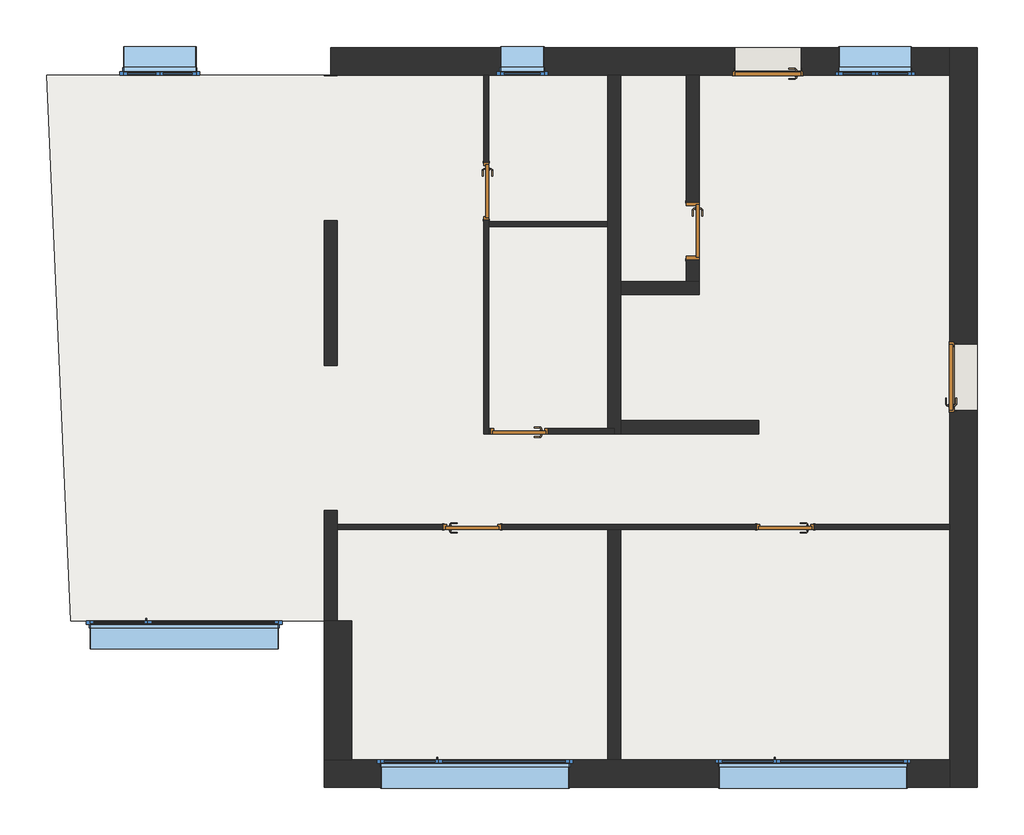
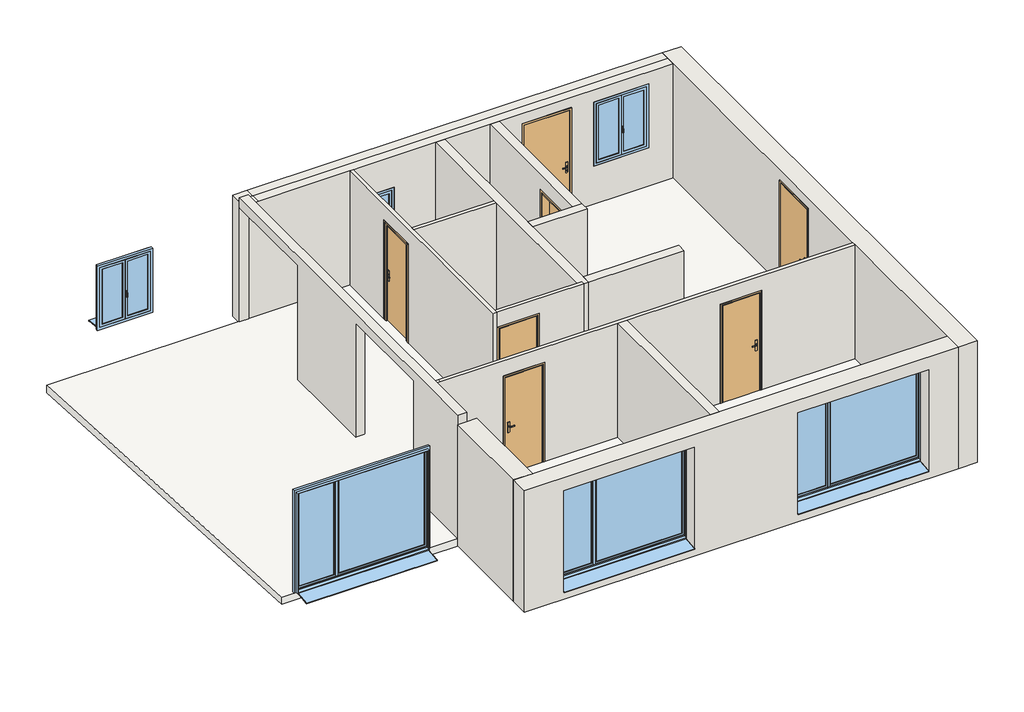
# One storey, incomplete: 13 walls, 7 doors, 6 windows, 1 slab.
"""IFC4 building model written with IfcOpenShell, lengths in millimetres."""

from ifc_helpers import new_model, si_unit, frame, origin, origin_with_axes, place, context, project, spatial, polyline, outline, extrude, faceted_brep, transform, mapped, element, save
from components import door_064d3271, int_simple_pp_0_73m_x_2_04m_0234ae46, int_simple_pp_0_73m_x_2_04m_d65dadfb, int_simple_pp_0_73m_x_2_04m_646e19c0, window_1_vantail_droit_0_60m_x_0_90m_8d029caf, window_1_30m_x_1_00m_6cb13c39, window_2_60m_x_2_10m_1177ca68

model = new_model("IFC4")

# Units and contexts
model_context = context("Model", 3, world=origin())
ifc_project = project(units=[si_unit("LENGTHUNIT", "METRE", prefix="MILLI")], contexts=[model_context])

# Site, building, storey
site = spatial("IfcSite", under=ifc_project)
building = spatial("IfcBuilding", under=site)
storey = spatial("IfcBuildingStorey", under=building, Name="RdC", Elevation=0.0)

# Doors
placement = place(None, origin())
door_shape = door_064d3271(model_context)
element("IfcDoor", 1, ObjectType="Porte d'entrée : PP Lisse (0.90 m x 2.15 m)", at=placement, inside=storey, context=model_context, shape_type="MappedRepresentation", body=[
    mapped(door_shape, transform((3814.2517592, 7464.1422201, 0.0), x_axis=(-1.0, 0.0, 0.0), y_axis=(0.0, -1.0, 0.0), z_axis=(0.0, 0.0, 1.0))),
])
element("IfcDoor", 2, ObjectType="Porte d'entrée : PP Lisse (0.90 m x 2.15 m)", at=placement, inside=storey, context=model_context, shape_type="MappedRepresentation", body=[
    mapped(door_shape, transform((6524.2517592, 3114.1422201, 0.0), x_axis=(0.0, 1.0, 0.0), y_axis=(-1.0, 0.0, 0.0), z_axis=(0.0, 0.0, 1.0))),
])
int_simple_pp_0_73m_x_2_04m_shape = int_simple_pp_0_73m_x_2_04m_0234ae46(model_context)
element("IfcDoor", 3, ObjectType="Int. Simple : PP (0.73m x 2.04m)", at=placement, inside=storey, context=model_context, shape_type="MappedRepresentation", body=[
    mapped(int_simple_pp_0_73m_x_2_04m_shape, transform((-220.7482408, 1039.1422201, 0.0), x_axis=(1.0, 0.0, 0.0), y_axis=(0.0, 1.0, 0.0), z_axis=(0.0, 0.0, 1.0))),
])
int_simple_pp_0_73m_x_2_04m_2_shape = int_simple_pp_0_73m_x_2_04m_d65dadfb(model_context)
element("IfcDoor", 4, ObjectType="Int. Simple : PP (0.73m x 2.04m)", at=placement, inside=storey, context=model_context, shape_type="MappedRepresentation", body=[
    mapped(int_simple_pp_0_73m_x_2_04m_2_shape, transform((-60.7482408, 5639.1422201, 0.0), x_axis=(0.0, -1.0, 0.0), y_axis=(1.0, 0.0, 0.0), z_axis=(0.0, 0.0, 1.0))),
])
element("IfcDoor", 5, ObjectType="Int. Simple : PP (0.73m x 2.04m)", at=placement, inside=storey, context=model_context, shape_type="MappedRepresentation", body=[
    mapped(int_simple_pp_0_73m_x_2_04m_2_shape, transform((359.2517592, 2359.1422201, 0.0), x_axis=(-1.0, 0.0, 0.0), y_axis=(0.0, -1.0, 0.0), z_axis=(0.0, 0.0, 1.0))),
])
element("IfcDoor", 6, ObjectType="Int. Simple : PP (0.73m x 2.04m)", at=placement, inside=storey, context=model_context, shape_type="MappedRepresentation", body=[
    mapped(int_simple_pp_0_73m_x_2_04m_2_shape, transform((4029.2517592, 1039.1422201, 0.0), x_axis=(-1.0, 0.0, 0.0), y_axis=(0.0, -1.0, 0.0), z_axis=(0.0, 0.0, 1.0))),
])
int_simple_pp_0_73m_x_2_04m_3_shape = int_simple_pp_0_73m_x_2_04m_646e19c0(model_context)
element("IfcDoor", 7, ObjectType="Int. Simple : PP (0.73m x 2.04m)", at=placement, inside=storey, context=model_context, shape_type="MappedRepresentation", body=[
    mapped(int_simple_pp_0_73m_x_2_04m_3_shape, transform((2784.2517592, 5089.1422201, 0.0), x_axis=(0.0, -1.0, 0.0), y_axis=(1.0, 0.0, 0.0), z_axis=(0.0, 0.0, 1.0))),
])

# Slab
element("IfcSlab", 8, ObjectType="Générique 150 mm - Plein", at=placement, inside=storey, context=model_context, shape_type="SweptSolid", body=[
    extrude(outline(polyline([(-6127.5668152, 7274.1422201), (6334.2517592, 7274.1422201), (6334.2517592, -2175.8577799), (-1915.7482408, -2175.8577799), (-1915.7482408, -255.8577799), (-5794.4672534, -255.8577799), (-6127.5668152, 7274.1422201)])), frame((0.0, 0.0, -150.0), z_axis=(0.0, 0.0, 1.0), x_axis=(1.0, 0.0, 0.0)), (0.0, 0.0, 1.0), 150.0),
])

# Walls
element("IfcWall", 9, ObjectType="Alliance soleil Mur extérieur", at=placement, inside=storey, context=model_context, shape_type="Brep", body=[
    faceted_brep([(6334.2517592, 7654.1422201, -150.0), (6334.2517592, 7274.1422201, -150.0), (6334.2517592, -2175.8577799, -150.0), (6334.2517592, -2555.8577799, -150.0), (6334.2517592, -2555.8577799, 2400.0), (6334.2517592, -2175.8577799, 2400.0), (6334.2517592, 1004.1422201, 2400.0), (6334.2517592, 1074.1422201, 2400.0), (6334.2517592, 7274.1422201, 2400.0), (6334.2517592, 7654.1422201, 2400.0), (6334.2517592, 3564.1422201, 0.0), (6334.2517592, 3594.1422201, 0.0), (6334.2517592, 3594.1422201, 2190.0), (6334.2517592, 2614.1422201, 2190.0), (6334.2517592, 2614.1422201, 0.0), (6334.2517592, 2644.1422201, 0.0), (6714.2517592, -2555.8577799, -150.0), (6714.2517592, 7654.1422201, -150.0), (6714.2517592, 7654.1422201, 2400.0), (6714.2517592, -2555.8577799, 2400.0), (6714.2517592, 2644.1422201, 2160.0), (6714.2517592, 3564.1422201, 2160.0), (6714.2517592, 3564.1422201, 0.0), (6714.2517592, 2644.1422201, 0.0), (6434.2517592, 2644.1422201, 2160.0), (6434.2517592, 3564.1422201, 2160.0), (6434.2517592, 3564.1422201, 0.0), (6434.2517592, 3579.1422201, 0.0), (6391.2517592, 3579.1422201, 0.0), (6391.2517592, 3594.1422201, 0.0), (6391.2517592, 2614.1422201, 0.0), (6391.2517592, 2629.1422201, 0.0), (6434.2517592, 2629.1422201, 0.0), (6434.2517592, 2644.1422201, 0.0), (6391.2517592, 3579.1422201, 2175.0), (6391.2517592, 2629.1422201, 2175.0), (6391.2517592, 2614.1422201, 2190.0), (6391.2517592, 3594.1422201, 2190.0), (6434.2517592, 2629.1422201, 2175.0), (6434.2517592, 3579.1422201, 2175.0)], [[[0, 1, 2, 3, 4, 5, 6, 7, 8, 9], [10, 11, 12, 13, 14, 15]], [[16, 17, 18, 19], [20, 21, 22, 23]], [[3, 2, 1, 0, 17, 16]], [[9, 8, 7, 6, 5, 4, 19, 18]], [[4, 3, 16, 19]], [[0, 9, 18, 17]], [[24, 25, 21, 20]], [[26, 27, 28, 29, 11, 10, 15, 14, 30, 31, 32, 33, 23, 22]], [[25, 26, 22, 21]], [[33, 24, 20, 23]], [[29, 28, 34, 35, 31, 30, 36, 37]], [[30, 14, 13, 36]], [[37, 36, 13, 12]], [[11, 29, 37, 12]], [[32, 31, 35, 38]], [[25, 24, 33, 32, 38, 39, 27, 26]], [[35, 34, 39, 38]], [[28, 27, 39, 34]]]),
])
element("IfcWall", 10, ObjectType="Alliance soleil Mur extérieur", at=placement, inside=storey, context=model_context, shape_type="Brep", body=[
    faceted_brep([(6334.2517592, -2175.8577799, -150.0), (-1915.7482408, -2175.8577799, -150.0), (-2295.7482408, -2175.8577799, -150.0), (-2295.7482408, -2175.8577799, 2400.0), (-1915.7482408, -2175.8577799, 2400.0), (1614.2517592, -2175.8577799, 2400.0), (1794.2517592, -2175.8577799, 2400.0), (6334.2517592, -2175.8577799, 2400.0), (3144.2517592, -2175.8577799, 35.0), (5744.2517592, -2175.8577799, 35.0), (5794.2517592, -2175.8577799, 35.0), (5794.2517592, -2175.8577799, 2185.0), (3094.2517592, -2175.8577799, 2185.0), (3094.2517592, -2175.8577799, 35.0), (-1565.7482408, -2175.8577799, 35.0), (1134.2517592, -2175.8577799, 35.0), (1134.2517592, -2175.8577799, 2185.0), (-1565.7482408, -2175.8577799, 2185.0), (-2295.7482408, -2555.8577799, -150.0), (6334.2517592, -2555.8577799, -150.0), (6334.2517592, -2555.8577799, 2400.0), (-2295.7482408, -2555.8577799, 2400.0), (5744.2517592, -2555.8577799, 2135.0), (5744.2517592, -2555.8577799, 3.4687294), (3144.2517592, -2555.8577799, 3.4687294), (3144.2517592, -2555.8577799, 2135.0), (1084.2517592, -2555.8577799, 2135.0), (1084.2517592, -2555.8577799, 3.4687294), (-1515.7482408, -2555.8577799, 3.4687294), (-1515.7482408, -2555.8577799, 2135.0), (5744.2517592, -2275.8577799, 2135.0), (5744.2517592, -2275.8577799, 35.0), (5744.2517592, -2255.8577799, 35.0), (3144.2517592, -2255.8577799, 35.0), (3144.2517592, -2275.8577799, 35.0), (3144.2517592, -2275.8577799, 2135.0), (5754.2517592, -2275.8577799, 35.0), (5754.2517592, -2225.8577799, 35.0), (5794.2517592, -2225.8577799, 35.0), (3094.2517592, -2225.8577799, 35.0), (3134.2517592, -2225.8577799, 35.0), (3134.2517592, -2275.8577799, 35.0), (5794.2517592, -2225.8577799, 2185.0), (3094.2517592, -2225.8577799, 2185.0), (5754.2517592, -2225.8577799, 2145.0), (3134.2517592, -2225.8577799, 2145.0), (5754.2517592, -2275.8577799, 2145.0), (3134.2517592, -2275.8577799, 2145.0), (1084.2517592, -2255.8577799, 35.0), (1084.2517592, -2275.8577799, 2135.0), (1084.2517592, -2275.8577799, 35.0), (-1515.7482408, -2255.8577799, 35.0), (-1515.7482408, -2275.8577799, 35.0), (-1515.7482408, -2275.8577799, 2135.0), (1094.2517592, -2275.8577799, 35.0), (1094.2517592, -2225.8577799, 35.0), (1134.2517592, -2225.8577799, 35.0), (-1565.7482408, -2225.8577799, 35.0), (-1525.7482408, -2225.8577799, 35.0), (-1525.7482408, -2275.8577799, 35.0), (1134.2517592, -2225.8577799, 2185.0), (1094.2517592, -2225.8577799, 2145.0), (-1525.7482408, -2225.8577799, 2145.0), (-1565.7482408, -2225.8577799, 2185.0), (1094.2517592, -2275.8577799, 2145.0), (-1525.7482408, -2275.8577799, 2145.0)], [[[0, 1, 2, 3, 4, 5, 6, 7], [8, 9, 10, 11, 12, 13], [14, 15, 16, 17]], [[18, 19, 20, 21], [22, 23, 24, 25], [26, 27, 28, 29]], [[2, 1, 0, 19, 18]], [[7, 6, 5, 4, 3, 21, 20]], [[0, 7, 20, 19]], [[3, 2, 18, 21]], [[30, 31, 32, 23, 22]], [[33, 34, 35, 25, 24]], [[32, 31, 36, 37, 38, 10, 9, 8, 13, 39, 40, 41, 34, 33]], [[35, 30, 22, 25]], [[32, 33, 24, 23]], [[10, 38, 42, 11]], [[40, 39, 43, 42, 38, 37, 44, 45]], [[37, 36, 46, 44]], [[31, 30, 35, 34, 41, 47, 46, 36]], [[11, 42, 43, 12]], [[45, 44, 46, 47]], [[39, 13, 12, 43]], [[41, 40, 45, 47]], [[48, 27, 26, 49, 50]], [[28, 51, 52, 53, 29]], [[27, 48, 51, 28]], [[49, 26, 29, 53]], [[48, 50, 54, 55, 56, 15, 14, 57, 58, 59, 52, 51]], [[15, 56, 60, 16]], [[56, 55, 61, 62, 58, 57, 63, 60]], [[55, 54, 64, 61]], [[50, 49, 53, 52, 59, 65, 64, 54]], [[16, 60, 63, 17]], [[62, 61, 64, 65]], [[57, 14, 17, 63]], [[59, 58, 62, 65]]]),
])
element("IfcWall", 11, ObjectType="Alliance soleil Mur extérieur", at=placement, inside=storey, context=model_context, shape_type="Brep", body=[
    faceted_brep([(-1915.7482408, -2175.8577799, -150.0), (-1915.7482408, -255.8577799, -150.0), (-1915.7482408, -255.8577799, 2400.0), (-1915.7482408, -2175.8577799, 2400.0), (-2295.7482408, -2175.8577799, -150.0), (-2295.7482408, -2175.8577799, 2400.0), (-2295.7482408, -635.8577799, 2400.0), (-2295.7482408, -255.8577799, 2400.0), (-2295.7482408, -255.8577799, 0.0), (-2295.7482408, -255.8577799, -150.0), (-2295.7482408, -635.8577799, -150.0), (-2115.7482408, -255.8577799, 2400.0)], [[[0, 1, 2, 3]], [[4, 5, 6, 7, 8, 9, 10]], [[1, 0, 4, 10, 9]], [[3, 2, 11, 7, 6, 5]], [[0, 3, 5, 4]], [[1, 9, 8, 7, 11, 2]]]),
])
element("IfcWall", 12, ObjectType="Alliance soleil Mur extérieur", at=placement, inside=storey, context=model_context, shape_type="Brep", body=[
    faceted_brep([(6334.2517592, 7654.1422201, -150.0), (-2205.7482408, 7654.1422201, -150.0), (-2205.7482408, 7654.1422201, 2400.0), (-1915.7482408, 7654.1422201, 2400.0), (6334.2517592, 7654.1422201, 2400.0), (4804.2517592, 7654.1422201, 2100.0), (4804.2517592, 7654.1422201, 753.4687294), (5804.2517592, 7654.1422201, 753.4687294), (5804.2517592, 7654.1422201, 2100.0), (135.2517592, 7654.1422201, 1700.0), (135.2517592, 7654.1422201, 753.4687294), (735.2517592, 7654.1422201, 753.4687294), (735.2517592, 7654.1422201, 1700.0), (4284.2517592, 7654.1422201, 2160.0), (3364.2517592, 7654.1422201, 2160.0), (3364.2517592, 7654.1422201, 0.0), (4284.2517592, 7654.1422201, 0.0), (-2205.7482408, 7274.1422201, -150.0), (6334.2517592, 7274.1422201, -150.0), (6334.2517592, 7274.1422201, 2400.0), (2874.2517592, 7274.1422201, 2400.0), (2694.2517592, 7274.1422201, 2400.0), (1794.2517592, 7274.1422201, 2400.0), (1614.2517592, 7274.1422201, 2400.0), (-25.7482408, 7274.1422201, 2400.0), (-95.7482408, 7274.1422201, 2400.0), (-1915.7482408, 7274.1422201, 2400.0), (-2205.7482408, 7274.1422201, 2400.0), (5854.2517592, 7274.1422201, 800.0), (4754.2517592, 7274.1422201, 800.0), (4754.2517592, 7274.1422201, 2150.0), (5854.2517592, 7274.1422201, 2150.0), (785.2517592, 7274.1422201, 800.0), (85.2517592, 7274.1422201, 800.0), (85.2517592, 7274.1422201, 1750.0), (785.2517592, 7274.1422201, 1750.0), (3364.2517592, 7274.1422201, 0.0), (3334.2517592, 7274.1422201, 0.0), (3334.2517592, 7274.1422201, 2190.0), (4314.2517592, 7274.1422201, 2190.0), (4314.2517592, 7274.1422201, 0.0), (4284.2517592, 7274.1422201, 0.0), (6334.2517592, 7464.1422201, 2400.0), (-1915.7482408, 7464.1422201, 2400.0), (-2205.7482408, 7464.1422201, 2400.0), (4804.2517592, 7354.1422201, 800.0), (4804.2517592, 7354.1422201, 785.0), (4804.2517592, 7374.1422201, 2100.0), (4804.2517592, 7374.1422201, 800.0), (5804.2517592, 7354.1422201, 785.0), (5804.2517592, 7354.1422201, 800.0), (5804.2517592, 7374.1422201, 800.0), (5804.2517592, 7374.1422201, 2100.0), (4794.2517592, 7374.1422201, 800.0), (4794.2517592, 7324.1422201, 800.0), (4754.2517592, 7324.1422201, 800.0), (5854.2517592, 7324.1422201, 800.0), (5814.2517592, 7324.1422201, 800.0), (5814.2517592, 7374.1422201, 800.0), (4754.2517592, 7324.1422201, 2150.0), (4794.2517592, 7324.1422201, 2110.0), (5814.2517592, 7324.1422201, 2110.0), (5854.2517592, 7324.1422201, 2150.0), (4794.2517592, 7374.1422201, 2110.0), (5814.2517592, 7374.1422201, 2110.0), (135.2517592, 7354.1422201, 800.0), (135.2517592, 7354.1422201, 785.0), (135.2517592, 7374.1422201, 1700.0), (135.2517592, 7374.1422201, 800.0), (735.2517592, 7354.1422201, 785.0), (735.2517592, 7354.1422201, 800.0), (735.2517592, 7374.1422201, 800.0), (735.2517592, 7374.1422201, 1700.0), (125.2517592, 7374.1422201, 800.0), (125.2517592, 7324.1422201, 800.0), (85.2517592, 7324.1422201, 800.0), (785.2517592, 7324.1422201, 800.0), (745.2517592, 7324.1422201, 800.0), (745.2517592, 7374.1422201, 800.0), (85.2517592, 7324.1422201, 1750.0), (125.2517592, 7324.1422201, 1710.0), (745.2517592, 7324.1422201, 1710.0), (785.2517592, 7324.1422201, 1750.0), (125.2517592, 7374.1422201, 1710.0), (745.2517592, 7374.1422201, 1710.0), (4284.2517592, 7374.1422201, 2160.0), (3364.2517592, 7374.1422201, 2160.0), (3364.2517592, 7374.1422201, 0.0), (3349.2517592, 7374.1422201, 0.0), (3349.2517592, 7331.1422201, 0.0), (3334.2517592, 7331.1422201, 0.0), (4314.2517592, 7331.1422201, 0.0), (4299.2517592, 7331.1422201, 0.0), (4299.2517592, 7374.1422201, 0.0), (4284.2517592, 7374.1422201, 0.0), (3349.2517592, 7331.1422201, 2175.0), (4299.2517592, 7331.1422201, 2175.0), (4314.2517592, 7331.1422201, 2190.0), (3334.2517592, 7331.1422201, 2190.0), (4299.2517592, 7374.1422201, 2175.0), (3349.2517592, 7374.1422201, 2175.0)], [[[0, 1, 2, 3, 4], [5, 6, 7, 8], [9, 10, 11, 12], [13, 14, 15, 16]], [[17, 18, 19, 20, 21, 22, 23, 24, 25, 26, 27], [28, 29, 30, 31], [32, 33, 34, 35], [36, 37, 38, 39, 40, 41]], [[1, 0, 18, 17]], [[0, 4, 42, 19, 18]], [[4, 3, 43, 42]], [[27, 26, 43, 44]], [[3, 2, 44, 43]], [[26, 25, 24, 23, 22, 21, 20, 19, 42, 43]], [[1, 17, 27, 44, 2]], [[45, 46, 6, 5, 47, 48]], [[49, 50, 51, 52, 8, 7]], [[46, 49, 7, 6]], [[46, 45, 50, 49]], [[5, 8, 52, 47]], [[50, 45, 48, 53, 54, 55, 29, 28, 56, 57, 58, 51]], [[29, 55, 59, 30]], [[55, 54, 60, 61, 57, 56, 62, 59]], [[54, 53, 63, 60]], [[53, 48, 47, 52, 51, 58, 64, 63]], [[30, 59, 62, 31]], [[61, 60, 63, 64]], [[62, 56, 28, 31]], [[57, 61, 64, 58]], [[65, 66, 10, 9, 67, 68]], [[69, 70, 71, 72, 12, 11]], [[66, 69, 11, 10]], [[66, 65, 70, 69]], [[9, 12, 72, 67]], [[70, 65, 68, 73, 74, 75, 33, 32, 76, 77, 78, 71]], [[33, 75, 79, 34]], [[75, 74, 80, 81, 77, 76, 82, 79]], [[74, 73, 83, 80]], [[73, 68, 67, 72, 71, 78, 84, 83]], [[34, 79, 82, 35]], [[81, 80, 83, 84]], [[82, 76, 32, 35]], [[77, 81, 84, 78]], [[85, 86, 14, 13]], [[87, 88, 89, 90, 37, 36, 41, 40, 91, 92, 93, 94, 16, 15]], [[86, 87, 15, 14]], [[94, 85, 13, 16]], [[90, 89, 95, 96, 92, 91, 97, 98]], [[91, 40, 39, 97]], [[98, 97, 39, 38]], [[37, 90, 98, 38]], [[93, 92, 96, 99]], [[86, 85, 94, 93, 99, 100, 88, 87]], [[96, 95, 100, 99]], [[89, 88, 100, 95]]]),
])
element("IfcWall", 13, ObjectType="Alliance soleil Mur refend", at=placement, inside=storey, context=model_context, shape_type="Brep", body=[
    faceted_brep([(1794.2517592, -2175.8577799, 2400.0), (1794.2517592, -2175.8577799, 0.0), (1794.2517592, 1004.1422201, 0.0), (1794.2517592, 1004.1422201, 2400.0), (1614.2517592, -2175.8577799, 0.0), (1614.2517592, -2175.8577799, 2400.0), (1614.2517592, 1004.1422201, 2400.0), (1614.2517592, 1004.1422201, 0.0)], [[[0, 1, 2, 3]], [[4, 5, 6, 7]], [[1, 4, 7, 2]], [[1, 0, 5, 4]], [[5, 0, 3, 6]], [[3, 2, 7, 6]]]),
    faceted_brep([(1794.2517592, 7274.1422201, 0.0), (1794.2517592, 7274.1422201, 2400.0), (1794.2517592, 4424.1422201, 2400.0), (1794.2517592, 4244.1422201, 2400.0), (1794.2517592, 2504.1422201, 2400.0), (1794.2517592, 2324.1422201, 2400.0), (1794.2517592, 2324.1422201, 0.0), (1794.2517592, 2504.1422201, 0.0), (1794.2517592, 4244.1422201, 0.0), (1794.2517592, 4424.1422201, 0.0), (1614.2517592, 7274.1422201, 2400.0), (1614.2517592, 7274.1422201, 0.0), (1614.2517592, 5254.1422201, 0.0), (1614.2517592, 5184.1422201, 0.0), (1614.2517592, 2324.1422201, 0.0), (1614.2517592, 2324.1422201, 2400.0), (1614.2517592, 5184.1422201, 2400.0), (1614.2517592, 5254.1422201, 2400.0)], [[[0, 1, 2, 3, 4, 5, 6, 7, 8, 9]], [[10, 11, 12, 13, 14, 15, 16, 17]], [[11, 0, 9, 8, 7, 6, 14, 13, 12]], [[1, 0, 11, 10]], [[1, 10, 17, 16, 15, 5, 4, 3, 2]], [[6, 5, 15, 14]]]),
])
element("IfcWall", 14, ObjectType="Alliance soleil Mur refend", at=placement, inside=storey, context=model_context, shape_type="Brep", body=[
    faceted_brep([(-2115.7482408, 7274.1422201, 0.0), (-2115.7482408, 7274.1422201, 2600.0), (-2115.7482408, -255.8577799, 2600.0), (-2115.7482408, -255.8577799, 2400.0), (-2115.7482408, -255.8577799, 0.0), (-2115.7482408, 1004.1422201, 0.0), (-2115.7482408, 1074.1422201, 0.0), (-2115.7482408, 1264.1422201, 0.0), (-2115.7482408, 1264.1422201, 2400.0), (-2115.7482408, 3264.1422201, 2400.0), (-2115.7482408, 3264.1422201, 0.0), (-2115.7482408, 5264.1422201, 0.0), (-2115.7482408, 5264.1422201, 2400.0), (-2115.7482408, 7264.1422201, 2400.0), (-2115.7482408, 7264.1422201, 0.0), (-2295.7482408, 7274.1422201, 2600.0), (-2295.7482408, 7274.1422201, 0.0), (-2295.7482408, 7264.1422201, 0.0), (-2295.7482408, 7264.1422201, 2400.0), (-2295.7482408, 5264.1422201, 2400.0), (-2295.7482408, 5264.1422201, 0.0), (-2295.7482408, 3264.1422201, 0.0), (-2295.7482408, 3264.1422201, 2400.0), (-2295.7482408, 1264.1422201, 2400.0), (-2295.7482408, 1264.1422201, 0.0), (-2295.7482408, -255.8577799, 0.0), (-2295.7482408, -255.8577799, 2400.0), (-2295.7482408, -255.8577799, 2600.0)], [[[0, 1, 2, 3, 4, 5, 6, 7, 8, 9, 10, 11, 12, 13, 14]], [[15, 16, 17, 18, 19, 20, 21, 22, 23, 24, 25, 26, 27]], [[4, 25, 24, 7, 6, 5]], [[16, 0, 14, 17]], [[20, 11, 10, 21]], [[2, 1, 15, 27]], [[4, 3, 2, 27, 26, 25]], [[12, 19, 18, 13]], [[19, 12, 11, 20]], [[13, 18, 17, 14]], [[8, 23, 22, 9]], [[23, 8, 7, 24]], [[9, 22, 21, 10]], [[0, 16, 15, 1]]]),
])
element("IfcWall", 15, ObjectType="Alliance soleil Cloison intérieure", at=placement, inside=storey, context=model_context, shape_type="Brep", body=[
    faceted_brep([(6334.2517592, 1074.1422201, 2400.0), (6334.2517592, 1074.1422201, 0.0), (4464.2517592, 1074.1422201, 0.0), (4464.2517592, 1074.1422201, 2075.0), (3664.2517592, 1074.1422201, 2075.0), (3664.2517592, 1074.1422201, 0.0), (144.2517592, 1074.1422201, 0.0), (144.2517592, 1074.1422201, 2075.0), (-655.7482408, 1074.1422201, 2075.0), (-655.7482408, 1074.1422201, 0.0), (-2115.7482408, 1074.1422201, 0.0), (-2115.7482408, 1074.1422201, 2400.0), (-1915.7482408, 1074.1422201, 2400.0), (6334.2517592, 1004.1422201, 0.0), (6334.2517592, 1004.1422201, 2400.0), (1794.2517592, 1004.1422201, 2400.0), (1614.2517592, 1004.1422201, 2400.0), (-1915.7482408, 1004.1422201, 2400.0), (-2115.7482408, 1004.1422201, 2400.0), (-2115.7482408, 1004.1422201, 0.0), (-655.7482408, 1004.1422201, 0.0), (-655.7482408, 1004.1422201, 2075.0), (144.2517592, 1004.1422201, 2075.0), (144.2517592, 1004.1422201, 0.0), (1614.2517592, 1004.1422201, 0.0), (1794.2517592, 1004.1422201, 0.0), (3664.2517592, 1004.1422201, 0.0), (3664.2517592, 1004.1422201, 2075.0), (4464.2517592, 1004.1422201, 2075.0), (4464.2517592, 1004.1422201, 0.0)], [[[0, 1, 2, 3, 4, 5, 6, 7, 8, 9, 10, 11, 12]], [[13, 14, 15, 16, 17, 18, 19, 20, 21, 22, 23, 24, 25, 26, 27, 28, 29]], [[1, 13, 29, 2]], [[19, 10, 9, 20]], [[23, 6, 5, 26, 25, 24]], [[1, 0, 14, 13]], [[11, 10, 19, 18]], [[11, 18, 17, 12]], [[0, 12, 17, 16, 15, 14]], [[22, 7, 6, 23]], [[7, 22, 21, 8]], [[8, 21, 20, 9]], [[4, 27, 26, 5]], [[27, 4, 3, 28]], [[28, 3, 2, 29]]]),
])
element("IfcWall", 16, ObjectType="Alliance soleil Cloison intérieure", at=placement, inside=storey, context=model_context, shape_type="Brep", body=[
    faceted_brep([(-95.7482408, 7274.1422201, 2400.0), (-95.7482408, 7274.1422201, 0.0), (-95.7482408, 6074.1422201, 0.0), (-95.7482408, 6074.1422201, 2075.0), (-95.7482408, 5274.1422201, 2075.0), (-95.7482408, 5274.1422201, 0.0), (-95.7482408, 2324.1422201, 0.0), (-95.7482408, 2324.1422201, 2400.0), (-25.7482408, 7274.1422201, 0.0), (-25.7482408, 7274.1422201, 2400.0), (-25.7482408, 5254.1422201, 2400.0), (-25.7482408, 5184.1422201, 2400.0), (-25.7482408, 4824.1422201, 2400.0), (-25.7482408, 2394.1422201, 2400.0), (-25.7482408, 2324.1422201, 2400.0), (-25.7482408, 2324.1422201, 0.0), (-25.7482408, 2394.1422201, 0.0), (-25.7482408, 5184.1422201, 0.0), (-25.7482408, 5254.1422201, 0.0), (-25.7482408, 5274.1422201, 0.0), (-25.7482408, 5274.1422201, 2075.0), (-25.7482408, 6074.1422201, 2075.0), (-25.7482408, 6074.1422201, 0.0)], [[[0, 1, 2, 3, 4, 5, 6, 7]], [[8, 9, 10, 11, 12, 13, 14, 15, 16, 17, 18, 19, 20, 21, 22]], [[1, 8, 22, 2]], [[15, 6, 5, 19, 18, 17, 16]], [[1, 0, 9, 8]], [[7, 6, 15, 14]], [[9, 0, 7, 14, 13, 12, 11, 10]], [[4, 20, 19, 5]], [[20, 4, 3, 21]], [[21, 3, 2, 22]]]),
])
element("IfcWall", 17, ObjectType="Alliance soleil Cloison intérieure", at=placement, inside=storey, context=model_context, shape_type="SweptSolid", body=[
    extrude(outline(polyline([(0.0, 1704.2517592), (2400.0, 1704.2517592), (2400.0, -25.7482408), (0.0, -25.7482408), (0.0, -5.7482408), (2075.0, -5.7482408), (2075.0, 794.2517592), (0.0, 794.2517592), (0.0, 1704.2517592)])), frame((0.0, 2324.1422201, 0.0), z_axis=(0.0, 1.0, 0.0), x_axis=(0.0, 0.0, 1.0)), (0.0, 0.0, 1.0), 70.0),
])
element("IfcWall", 18, ObjectType="Alliance soleil Cloison intérieure", at=placement, inside=storey, context=model_context, shape_type="Brep", body=[
    faceted_brep([(-25.7482408, 5184.1422201, 0.0), (1614.2517592, 5184.1422201, 0.0), (1614.2517592, 5184.1422201, 2400.0), (674.2517592, 5184.1422201, 2400.0), (-25.7482408, 5184.1422201, 2400.0), (-25.7482408, 5254.1422201, 0.0), (-25.7482408, 5254.1422201, 2400.0), (1614.2517592, 5254.1422201, 2400.0), (1614.2517592, 5254.1422201, 0.0)], [[[0, 1, 2, 3, 4]], [[5, 6, 7, 8]], [[1, 0, 5, 8]], [[2, 1, 8, 7]], [[0, 4, 6, 5]], [[4, 3, 2, 7, 6]]]),
])
element("IfcWall", 19, ObjectType="Alliance soleil Mur refend", at=placement, inside=storey, context=model_context, shape_type="SweptSolid", body=[
    extrude(outline(polyline([(3694.2517592, 2324.1422201), (1794.2517592, 2324.1422201), (1794.2517592, 2504.1422201), (3694.2517592, 2504.1422201), (3694.2517592, 2324.1422201)])), origin_with_axes(), (0.0, 0.0, 1.0), 2400.0),
])
element("IfcWall", 20, ObjectType="Alliance soleil Mur refend", at=placement, inside=storey, context=model_context, shape_type="Brep", body=[
    faceted_brep([(1794.2517592, 4244.1422201, 0.0), (2874.2517592, 4244.1422201, 0.0), (2874.2517592, 4244.1422201, 2400.0), (1794.2517592, 4244.1422201, 2400.0), (1794.2517592, 4424.1422201, 0.0), (1794.2517592, 4424.1422201, 2400.0), (2694.2517592, 4424.1422201, 2400.0), (2874.2517592, 4424.1422201, 2400.0), (2874.2517592, 4424.1422201, 0.0), (2694.2517592, 4424.1422201, 0.0)], [[[0, 1, 2, 3]], [[4, 5, 6, 7, 8, 9]], [[1, 0, 4, 9, 8]], [[0, 3, 5, 4]], [[2, 1, 8, 7]], [[3, 2, 7, 6, 5]]]),
])
element("IfcWall", 21, ObjectType="Alliance soleil Mur refend", at=placement, inside=storey, context=model_context, shape_type="SweptSolid", body=[
    extrude(outline(polyline([(4424.1422201, 0.0), (4424.1422201, 2400.0), (7274.1422201, 2400.0), (7274.1422201, 0.0), (5524.1422201, 0.0), (5524.1422201, 2075.0), (4724.1422201, 2075.0), (4724.1422201, 0.0), (4424.1422201, 0.0)])), frame((2694.2517592, 0.0, 0.0), z_axis=(1.0, 0.0, 0.0), x_axis=(0.0, 1.0, 0.0)), (0.0, 0.0, 1.0), 180.0),
])

# Windows
window_1_vantail_droit_0_60m_x_0_90m_shape = window_1_vantail_droit_0_60m_x_0_90m_8d029caf(model_context)
element("IfcWindow", 22, ObjectType="1 Vantail - Droit : 0.60m x 0.90m", at=placement, inside=storey, context=model_context, shape_type="MappedRepresentation", body=[
    mapped(window_1_vantail_droit_0_60m_x_0_90m_shape, transform((435.2517592, 7464.1422201, 0.0), x_axis=(1.0, 0.0, 0.0), y_axis=(0.0, 1.0, 0.0), z_axis=(0.0, 0.0, 1.0))),
])
window_1_30m_x_1_00m_shape = window_1_30m_x_1_00m_6cb13c39(model_context)
element("IfcWindow", 23, ObjectType="2 Vantaux - Droits : 1.30m x 1.00m", at=placement, inside=storey, context=model_context, shape_type="MappedRepresentation", body=[
    mapped(window_1_30m_x_1_00m_shape, transform((-4564.7482408, 7464.1422201, 0.0), x_axis=(1.0, 0.0, 0.0), y_axis=(0.0, 1.0, 0.0), z_axis=(0.0, 0.0, 1.0))),
])
element("IfcWindow", 24, ObjectType="2 Vantaux - Droits : 1.30m x 1.00m", at=placement, inside=storey, context=model_context, shape_type="MappedRepresentation", body=[
    mapped(window_1_30m_x_1_00m_shape, transform((5304.2517592, 7464.1422201, 0.0), x_axis=(1.0, 0.0, 0.0), y_axis=(0.0, 1.0, 0.0), z_axis=(0.0, 0.0, 1.0))),
])
window_2_60m_x_2_10m_shape = window_2_60m_x_2_10m_1177ca68(model_context)
element("IfcWindow", 25, ObjectType="285-porte-fenetre-linteau-droit-tierce-parametrique-80 : 2.60m x 2.10m", at=placement, inside=storey, context=model_context, shape_type="MappedRepresentation", body=[
    mapped(window_2_60m_x_2_10m_shape, transform((5144.2517592, -2365.8577799, 0.0), x_axis=(-1.0, 0.0, 0.0), y_axis=(0.0, -1.0, 0.0), z_axis=(0.0, 0.0, 1.0))),
])
element("IfcWindow", 26, ObjectType="285-porte-fenetre-linteau-droit-tierce-parametrique-80 : 2.60m x 2.10m", at=placement, inside=storey, context=model_context, shape_type="MappedRepresentation", body=[
    mapped(window_2_60m_x_2_10m_shape, transform((484.2517592, -2365.8577799, 0.0), x_axis=(-1.0, 0.0, 0.0), y_axis=(0.0, -1.0, 0.0), z_axis=(0.0, 0.0, 1.0))),
])
element("IfcWindow", 27, ObjectType="285-porte-fenetre-linteau-droit-tierce-parametrique-80 : 2.60m x 2.10m", at=placement, inside=storey, context=model_context, shape_type="MappedRepresentation", body=[
    mapped(window_2_60m_x_2_10m_shape, transform((-3528.0290685, -445.8577799, 0.0), x_axis=(-1.0, 0.0, 0.0), y_axis=(0.0, -1.0, 0.0), z_axis=(0.0, 0.0, 1.0))),
])

save(model, "model.ifc")
